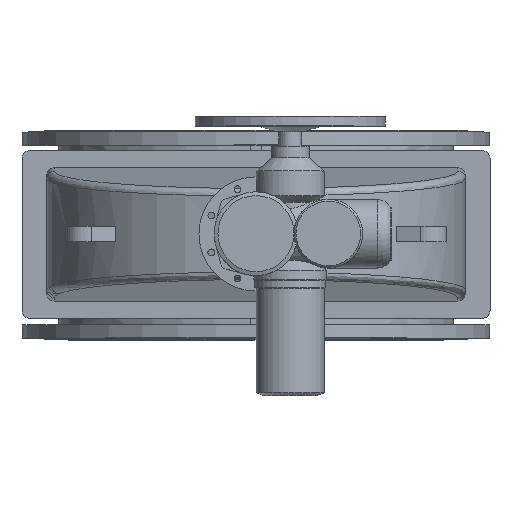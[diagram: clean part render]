
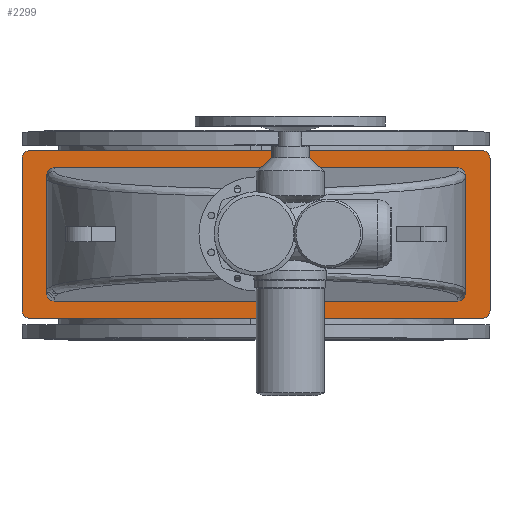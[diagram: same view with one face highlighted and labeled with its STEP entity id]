
A CAD part, top view. The second image highlights one B-rep face of the part: STEP entity #2299.
In plain terms, the highlighted planar face has unit normal (0, 0, 1).
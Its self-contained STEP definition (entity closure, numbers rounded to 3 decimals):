
#2299=ADVANCED_FACE('',(#7586,#7588),#7590,.T.);
#7586=FACE_BOUND('',#7587,.T.);
#7587=EDGE_LOOP('',(#10434,#10435,#10436,#10437,#10438,#10439,#10440,#10441));
#7588=FACE_BOUND('',#7589,.T.);
#7589=EDGE_LOOP('',(#10442,#10443,#10444,#10445,#10446,#10447,#10448,#10449));
#7590=PLANE('',#7591);
#7591=AXIS2_PLACEMENT_3D('',#7592,#7593,#7594);
#7592=CARTESIAN_POINT('',(0.,0.,1116.));
#7593=DIRECTION('',(0.,-0.,1.));
#7594=DIRECTION('',(0.,1.,0.));
#10434=ORIENTED_EDGE('',*,*,#11551,.F.);
#10435=ORIENTED_EDGE('',*,*,#11564,.T.);
#10436=ORIENTED_EDGE('',*,*,#11563,.F.);
#10437=ORIENTED_EDGE('',*,*,#11561,.T.);
#10438=ORIENTED_EDGE('',*,*,#11559,.F.);
#10439=ORIENTED_EDGE('',*,*,#11557,.T.);
#10440=ORIENTED_EDGE('',*,*,#11555,.F.);
#10441=ORIENTED_EDGE('',*,*,#11552,.T.);
#10442=ORIENTED_EDGE('',*,*,#11565,.F.);
#10443=ORIENTED_EDGE('',*,*,#11566,.F.);
#10444=ORIENTED_EDGE('',*,*,#11567,.F.);
#10445=ORIENTED_EDGE('',*,*,#11568,.F.);
#10446=ORIENTED_EDGE('',*,*,#11569,.F.);
#10447=ORIENTED_EDGE('',*,*,#11570,.F.);
#10448=ORIENTED_EDGE('',*,*,#11571,.F.);
#10449=ORIENTED_EDGE('',*,*,#11572,.F.);
#11551=EDGE_CURVE('',#12808,#12806,#12810,.F.);
#11552=EDGE_CURVE('',#12811,#12806,#12812,.T.);
#11555=EDGE_CURVE('',#12811,#12814,#12816,.F.);
#11557=EDGE_CURVE('',#12817,#12814,#12819,.T.);
#11559=EDGE_CURVE('',#12817,#12820,#12822,.F.);
#11561=EDGE_CURVE('',#12823,#12820,#12825,.T.);
#11563=EDGE_CURVE('',#12823,#12826,#12828,.F.);
#11564=EDGE_CURVE('',#12808,#12826,#12829,.T.);
#11565=EDGE_CURVE('',#12830,#12831,#12832,.F.);
#11566=EDGE_CURVE('',#12833,#12830,#12834,.T.);
#11567=EDGE_CURVE('',#12835,#12833,#12836,.T.);
#11568=EDGE_CURVE('',#12837,#12835,#12838,.T.);
#11569=EDGE_CURVE('',#12839,#12837,#12840,.F.);
#11570=EDGE_CURVE('',#12841,#12839,#12842,.T.);
#11571=EDGE_CURVE('',#12843,#12841,#12844,.T.);
#11572=EDGE_CURVE('',#12831,#12843,#12845,.T.);
#12806=VERTEX_POINT('',#16165);
#12808=VERTEX_POINT('',#16169);
#12810=CIRCLE('',#16173,20.);
#12811=VERTEX_POINT('',#16177);
#12812=LINE('',#16178,#16179);
#12814=VERTEX_POINT('',#16184);
#12816=CIRCLE('',#16188,20.);
#12817=VERTEX_POINT('',#16192);
#12819=LINE('',#16196,#16197);
#12820=VERTEX_POINT('',#16199);
#12822=CIRCLE('',#16203,20.);
#12823=VERTEX_POINT('',#16207);
#12825=LINE('',#16211,#16212);
#12826=VERTEX_POINT('',#16214);
#12828=CIRCLE('',#16218,20.);
#12829=LINE('',#16222,#16223);
#12830=VERTEX_POINT('',#16225);
#12831=VERTEX_POINT('',#16226);
#12832=(BOUNDED_CURVE()B_SPLINE_CURVE(3,
(#16227,#16228,#16229,#16230),
.UNSPECIFIED.,.F.,.F.)B_SPLINE_CURVE_WITH_KNOTS((4,4),
(0.,1.),
.UNSPECIFIED.)CURVE()GEOMETRIC_REPRESENTATION_ITEM()RATIONAL_B_SPLINE_CURVE((1.,
0.805,0.805,1.))REPRESENTATION_ITEM(''));
#12833=VERTEX_POINT('',#16231);
#12834=LINE('',#16232,#16233);
#12835=VERTEX_POINT('',#16235);
#12836=(BOUNDED_CURVE()B_SPLINE_CURVE(3,
(#16236,#16237,#16238,#16239),
.UNSPECIFIED.,.F.,.F.)B_SPLINE_CURVE_WITH_KNOTS((4,4),
(0.,1.),
.UNSPECIFIED.)CURVE()GEOMETRIC_REPRESENTATION_ITEM()RATIONAL_B_SPLINE_CURVE((1.,
0.805,0.805,1.))REPRESENTATION_ITEM(''));
#12837=VERTEX_POINT('',#16240);
#12838=LINE('',#16241,#16242);
#12839=VERTEX_POINT('',#16244);
#12840=(BOUNDED_CURVE()B_SPLINE_CURVE(3,
(#16245,#16246,#16247,#16248),
.UNSPECIFIED.,.F.,.F.)B_SPLINE_CURVE_WITH_KNOTS((4,4),
(0.,1.),
.UNSPECIFIED.)CURVE()GEOMETRIC_REPRESENTATION_ITEM()RATIONAL_B_SPLINE_CURVE((1.,
0.805,0.805,1.))REPRESENTATION_ITEM(''));
#12841=VERTEX_POINT('',#16249);
#12842=LINE('',#16250,#16251);
#12843=VERTEX_POINT('',#16253);
#12844=(BOUNDED_CURVE()B_SPLINE_CURVE(3,
(#16254,#16255,#16256,#16257),
.UNSPECIFIED.,.F.,.F.)B_SPLINE_CURVE_WITH_KNOTS((4,4),
(0.,1.),
.UNSPECIFIED.)CURVE()GEOMETRIC_REPRESENTATION_ITEM()RATIONAL_B_SPLINE_CURVE((1.,
0.805,0.805,1.))REPRESENTATION_ITEM(''));
#12845=LINE('',#16258,#16259);
#16165=CARTESIAN_POINT('',(-615.,-200.,1116.));
#16169=CARTESIAN_POINT('',(-595.,-220.,1116.));
#16173=AXIS2_PLACEMENT_3D('',#16174,#16175,#16176);
#16174=CARTESIAN_POINT('',(-595.,-200.,1116.));
#16175=DIRECTION('',(0.,-0.,1.));
#16176=DIRECTION('',(-1.,0.,0.));
#16177=CARTESIAN_POINT('',(-615.,200.,1116.));
#16178=CARTESIAN_POINT('',(-615.,200.,1116.));
#16179=VECTOR('',#16180,1.);
#16180=DIRECTION('',(0.,-1.,0.));
#16184=CARTESIAN_POINT('',(-595.,220.,1116.));
#16188=AXIS2_PLACEMENT_3D('',#16189,#16190,#16191);
#16189=CARTESIAN_POINT('',(-595.,200.,1116.));
#16190=DIRECTION('',(0.,-0.,1.));
#16191=DIRECTION('',(0.,1.,0.));
#16192=CARTESIAN_POINT('',(595.,220.,1116.));
#16196=CARTESIAN_POINT('',(595.,220.,1116.));
#16197=VECTOR('',#16198,1.);
#16198=DIRECTION('',(-1.,0.,0.));
#16199=CARTESIAN_POINT('',(615.,200.,1116.));
#16203=AXIS2_PLACEMENT_3D('',#16204,#16205,#16206);
#16204=CARTESIAN_POINT('',(595.,200.,1116.));
#16205=DIRECTION('',(0.,-0.,1.));
#16206=DIRECTION('',(1.,0.,0.));
#16207=CARTESIAN_POINT('',(615.,-200.,1116.));
#16211=CARTESIAN_POINT('',(615.,-200.,1116.));
#16212=VECTOR('',#16213,1.);
#16213=DIRECTION('',(0.,1.,0.));
#16214=CARTESIAN_POINT('',(595.,-220.,1116.));
#16218=AXIS2_PLACEMENT_3D('',#16219,#16220,#16221);
#16219=CARTESIAN_POINT('',(595.,-200.,1116.));
#16220=DIRECTION('',(0.,-0.,1.));
#16221=DIRECTION('',(0.,-1.,0.));
#16222=CARTESIAN_POINT('',(-595.,-220.,1116.));
#16223=VECTOR('',#16224,1.);
#16224=DIRECTION('',(1.,0.,0.));
#16225=CARTESIAN_POINT('',(530.,-175.,1116.));
#16226=CARTESIAN_POINT('',(550.,-154.924,1116.));
#16227=CARTESIAN_POINT('',(550.,-154.924,1116.));
#16228=CARTESIAN_POINT('',(550.,-166.684,1116.));
#16229=CARTESIAN_POINT('',(541.716,-175.,1116.));
#16230=CARTESIAN_POINT('',(530.,-175.,1116.));
#16231=CARTESIAN_POINT('',(-530.,-175.,1116.));
#16232=CARTESIAN_POINT('',(-530.,-175.,1116.));
#16233=VECTOR('',#16234,1.);
#16234=DIRECTION('',(1.,0.,0.));
#16235=CARTESIAN_POINT('',(-550.,-154.924,1116.));
#16236=CARTESIAN_POINT('',(-550.,-154.924,1116.));
#16237=CARTESIAN_POINT('',(-550.,-166.684,1116.));
#16238=CARTESIAN_POINT('',(-541.716,-175.,1116.));
#16239=CARTESIAN_POINT('',(-530.,-175.,1116.));
#16240=CARTESIAN_POINT('',(-550.,154.924,1116.));
#16241=CARTESIAN_POINT('',(-550.,154.924,1116.));
#16242=VECTOR('',#16243,1.);
#16243=DIRECTION('',(0.,-1.,0.));
#16244=CARTESIAN_POINT('',(-530.,175.,1116.));
#16245=CARTESIAN_POINT('',(-550.,154.924,1116.));
#16246=CARTESIAN_POINT('',(-550.,166.684,1116.));
#16247=CARTESIAN_POINT('',(-541.716,175.,1116.));
#16248=CARTESIAN_POINT('',(-530.,175.,1116.));
#16249=CARTESIAN_POINT('',(530.,175.,1116.));
#16250=CARTESIAN_POINT('',(530.,175.,1116.));
#16251=VECTOR('',#16252,1.);
#16252=DIRECTION('',(-1.,0.,0.));
#16253=CARTESIAN_POINT('',(550.,154.924,1116.));
#16254=CARTESIAN_POINT('',(550.,154.924,1116.));
#16255=CARTESIAN_POINT('',(550.,166.684,1116.));
#16256=CARTESIAN_POINT('',(541.716,175.,1116.));
#16257=CARTESIAN_POINT('',(530.,175.,1116.));
#16258=CARTESIAN_POINT('',(550.,-154.924,1116.));
#16259=VECTOR('',#16260,1.);
#16260=DIRECTION('',(0.,1.,0.));
